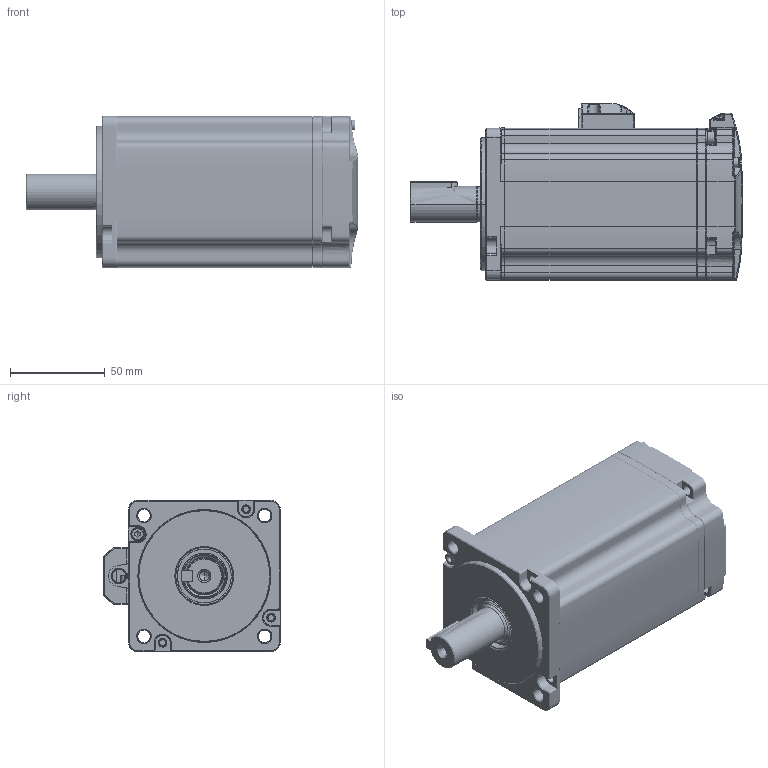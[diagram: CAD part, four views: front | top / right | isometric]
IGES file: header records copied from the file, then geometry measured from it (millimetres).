
Start section: SolidWorks IGES file using analytic representation for surfaces
Bounding box: 175 x 93 x 80 mm (x, y, z)
Surface area: 188383 mm2 (no closed solid volume)
Topology: 0 solids, 0 shells, 2099 faces, 26263 edges, 26178 vertices
Faces by surface type: revolution 1080, bspline 1019
